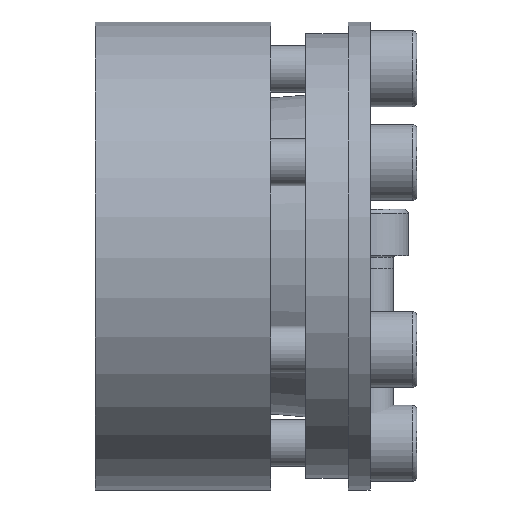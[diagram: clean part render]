
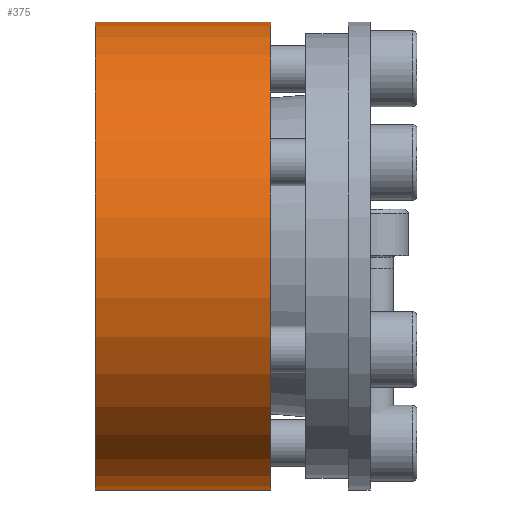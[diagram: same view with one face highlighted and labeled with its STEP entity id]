
A CAD part, left-side view. The second image highlights one B-rep face of the part: STEP entity #375.
In plain terms, the highlighted cylindrical face has radius 40 mm (diameter 80 mm), a partial arc.
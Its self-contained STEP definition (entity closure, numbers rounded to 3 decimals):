
#375 = ADVANCED_FACE( '', ( #599 ), #600, .T. );
#599 = FACE_OUTER_BOUND( '', #747, .T. );
#600 = CYLINDRICAL_SURFACE( '', #748, 40. );
#747 = EDGE_LOOP( '', ( #977, #978, #979, #980 ) );
#748 = AXIS2_PLACEMENT_3D( '', #981, #982, #983 );
#977 = ORIENTED_EDGE( '', *, *, #1254, .F. );
#978 = ORIENTED_EDGE( '', *, *, #1261, .T. );
#979 = ORIENTED_EDGE( '', *, *, #1266, .T. );
#980 = ORIENTED_EDGE( '', *, *, #1234, .T. );
#981 = CARTESIAN_POINT( '', ( 0., -60., 0. ) );
#982 = DIRECTION( '', ( 0., 1., 0. ) );
#983 = DIRECTION( '', ( 0., 0., -1. ) );
#1234 = EDGE_CURVE( '', #1371, #1369, #1372, .T. );
#1254 = EDGE_CURVE( '', #1406, #1369, #1408, .T. );
#1261 = EDGE_CURVE( '', #1406, #1419, #1421, .F. );
#1266 = EDGE_CURVE( '', #1419, #1371, #1429, .T. );
#1369 = VERTEX_POINT( '', #1491 );
#1371 = VERTEX_POINT( '', #1494 );
#1372 = LINE( '', #1495, #1496 );
#1406 = VERTEX_POINT( '', #1536 );
#1408 = CIRCLE( '', #1539, 40. );
#1419 = VERTEX_POINT( '', #1554 );
#1421 = LINE( '', #1557, #1558 );
#1429 = CIRCLE( '', #1569, 40. );
#1491 = CARTESIAN_POINT( '', ( 20.689, 17., 34.234 ) );
#1494 = CARTESIAN_POINT( '', ( 20.689, 47., 34.234 ) );
#1495 = CARTESIAN_POINT( '', ( 20.689, -60., 34.234 ) );
#1496 = VECTOR( '', #1611, 1000. );
#1536 = CARTESIAN_POINT( '', ( 19.303, 17., 35.034 ) );
#1539 = AXIS2_PLACEMENT_3D( '', #1658, #1659, #1660 );
#1554 = CARTESIAN_POINT( '', ( 19.303, 47., 35.034 ) );
#1557 = CARTESIAN_POINT( '', ( 19.303, -60., 35.034 ) );
#1558 = VECTOR( '', #1672, 1000. );
#1569 = AXIS2_PLACEMENT_3D( '', #1679, #1680, #1681 );
#1611 = DIRECTION( '', ( 0., -1., 0. ) );
#1658 = CARTESIAN_POINT( '', ( 0., 17., 0. ) );
#1659 = DIRECTION( '', ( 0., -1., 0. ) );
#1660 = DIRECTION( '', ( 0., 0., -1. ) );
#1672 = DIRECTION( '', ( 0., -1., 0. ) );
#1679 = CARTESIAN_POINT( '', ( 0., 47., 0. ) );
#1680 = DIRECTION( '', ( 0., -1., 0. ) );
#1681 = DIRECTION( '', ( 0., 0., -1. ) );
